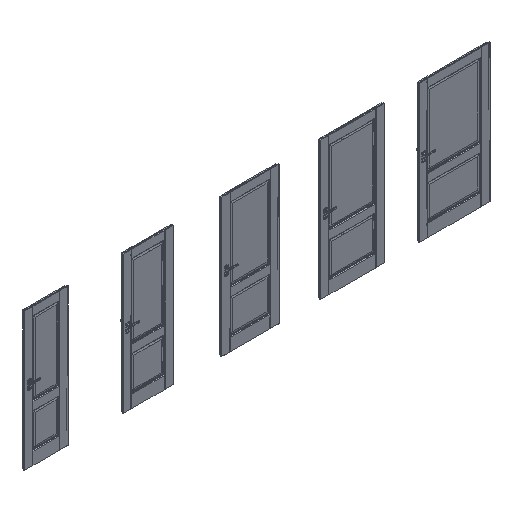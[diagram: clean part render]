
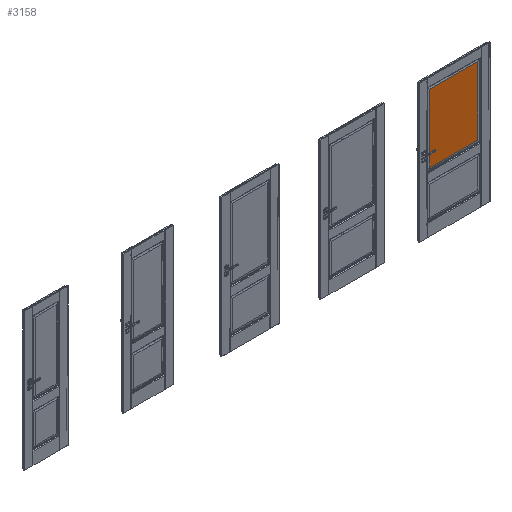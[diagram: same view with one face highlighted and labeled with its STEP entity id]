
A CAD part, isometric view. The second image highlights one B-rep face of the part: STEP entity #3158.
In plain terms, the highlighted planar face has unit normal (0, -1, 0).
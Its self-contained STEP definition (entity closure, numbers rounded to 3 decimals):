
#3158=ADVANCED_FACE('',(#6203),#4908,.F.);
#4908=PLANE('',#35409);
#6203=FACE_OUTER_BOUND('',#7998,.T.);
#7998=EDGE_LOOP('',(#14988,#14989,#14990,#14991));
#14988=ORIENTED_EDGE('',*,*,#24871,.F.);
#14989=ORIENTED_EDGE('',*,*,#24866,.F.);
#14990=ORIENTED_EDGE('',*,*,#24872,.T.);
#14991=ORIENTED_EDGE('',*,*,#24868,.T.);
#20742=VERTEX_POINT('',#51598);
#20743=VERTEX_POINT('',#51600);
#20744=VERTEX_POINT('',#51604);
#20745=VERTEX_POINT('',#51605);
#24866=EDGE_CURVE('',#20742,#20743,#29511,.T.);
#24868=EDGE_CURVE('',#20744,#20745,#29513,.T.);
#24871=EDGE_CURVE('',#20743,#20745,#29516,.T.);
#24872=EDGE_CURVE('',#20742,#20744,#29517,.T.);
#29511=LINE('',#51599,#33256);
#29513=LINE('',#51603,#33258);
#29516=LINE('',#51609,#33261);
#29517=LINE('',#51610,#33262);
#33256=VECTOR('',#41931,1.);
#33258=VECTOR('',#41935,1.);
#33261=VECTOR('',#41940,1.);
#33262=VECTOR('',#41941,1.);
#35409=AXIS2_PLACEMENT_3D('',#51611,#41942,#41943);
#41931=DIRECTION('',(0.,0.,1.));
#41935=DIRECTION('',(0.,0.,1.));
#41940=DIRECTION('',(1.,0.,0.));
#41941=DIRECTION('',(1.,0.,0.));
#41942=DIRECTION('',(0.,1.,0.));
#41943=DIRECTION('',(0.,0.,1.));
#51598=CARTESIAN_POINT('',(5646.343,-29.,860.093));
#51599=CARTESIAN_POINT('',(5646.343,-29.,1931.75));
#51600=CARTESIAN_POINT('',(5646.343,-29.,1861.407));
#51603=CARTESIAN_POINT('',(6353.657,-29.,789.75));
#51604=CARTESIAN_POINT('',(6353.657,-29.,860.093));
#51605=CARTESIAN_POINT('',(6353.657,-29.,1861.407));
#51609=CARTESIAN_POINT('',(5776.,-29.,1861.407));
#51610=CARTESIAN_POINT('',(5776.,-29.,860.093));
#51611=CARTESIAN_POINT('',(5776.,-29.,1931.75));
